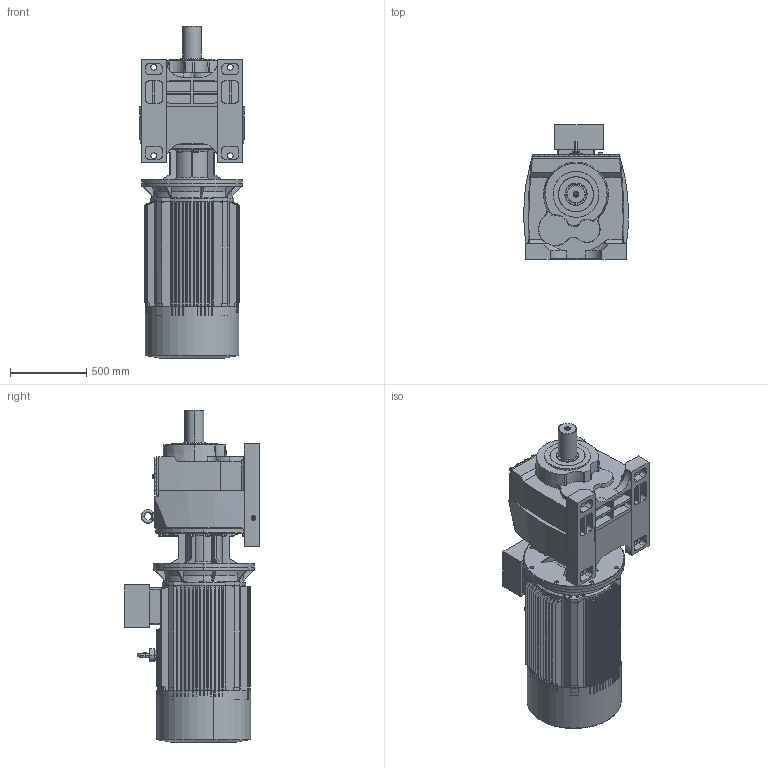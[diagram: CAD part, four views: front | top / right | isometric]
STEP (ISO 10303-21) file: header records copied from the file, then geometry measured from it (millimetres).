
FILE_DESCRIPTION (( 'STEP AP203' ), '1' );
FILE_NAME ('MV972-MV973-M3-315M-4.STEP', '2019-07-25T06:54:38', ( '' ), ( '' ), 'SwSTEP 2.0', 'SolidWorks 2012', '' );
FILE_SCHEMA (( 'CONFIG_CONTROL_DESIGN' ));
Products named in the file (12): 315ﾁｧ+ﾀ_-ｼ+､; Y2-315M-4Íß¦ð-Ô©Ã_-¼+¤; Y2-315M-4 B5; Y2-315-4.6.8.10-ｦﾈﾁﾂ-ｩﾃ_-ｼ+､; +ｷﾎｨB5-315M_-ｼ+､; Y2-315-2.4..6.8ﾀiﾍ_-ｼ+､; Y2-315M-4ﾍﾟ_-ｼ+､; 93315B5_Varsayìlan; M973_Varsayìlan; ML9A_Varsayìlan; MN_97_3_0_A-B31_B5_ML9A_0_0_0_0_0_0_0_0_0_0_0_0_M1; MV972-MV973-M3-315M-4
Assembly tree (11 placements, depth 3):
  MV972-MV973-M3-315M-4
    MN_97_3_0_A-B31_B5_ML9A_0_0_0_0_0_0_0_0_0_0_0_0_M1
      M973_Varsayìlan
      93315B5_Varsayìlan
      ML9A_Varsayìlan
    Y2-315M-4 B5
      Y2-315M-4ﾍﾟ_-ｼ+､
      +ｷﾎｨB5-315M_-ｼ+､
      Y2-315-2.4..6.8ﾀiﾍ_-ｼ+､
      315ﾁｧ+ﾀ_-ｼ+､
      Y2-315-4.6.8.10-ｦﾈﾁﾂ-ｩﾃ_-ｼ+､
      Y2-315M-4Íß¦ð-Ô©Ã_-¼+¤
Bounding box: 688.77 x 883 x 2174.5 mm (x, y, z)
Volume: 296506654.6 mm3; surface area: 13915485.2 mm2
Topology: 15 solids, 22 shells, 2340 faces, 5805 edges, 3604 vertices
Faces by surface type: plane 962, cone 772, cylinder 501, bspline 105
Entity records: 94487 total; most frequent: CARTESIAN_POINT 40542, ORIENTED_EDGE 11604, DIRECTION 9979, EDGE_CURVE 5802, AXIS2_PLACEMENT_3D 3771, VERTEX_POINT 3604, EDGE_LOOP 2524, LINE 2437
